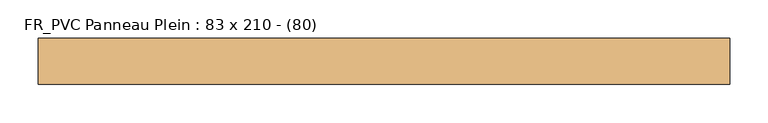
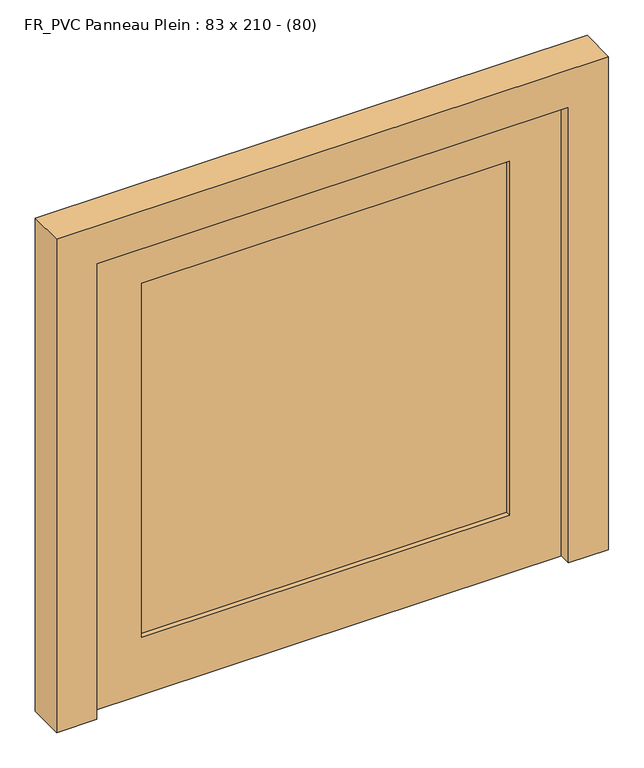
"""IFC4 building model written with IfcOpenShell, lengths in millimetres: door geometry, FR_PVC Panneau Plein : 83 x 210 - (80)."""

from ifc_helpers import new_model, si_unit, origin, place, context, project, spatial, faceted_brep, source, transform, mapped, element, save


def fr_pvc_panneau_plein_83_x_210_80_f0693e7c(model_context):
    return source(origin(), model_context, "Body", "Brep", [
        faceted_brep([(-450.0, 88.7935702, 0.0), (-400.0, 88.7935702, 0.0), (-400.0, 48.7935702, 0.0), (-385.0, 48.7935702, 0.0), (-385.0, 28.7935702, 0.0), (-450.0, 28.7935702, 0.0), (-450.0, 28.7935702, 850.0), (-450.0, 88.7935702, 850.0), (-385.0, 28.7935702, 785.0), (385.0, 28.7935702, 785.0), (385.0, 28.7935702, 0.0), (450.0, 28.7935702, 0.0), (450.0, 28.7935702, 850.0), (-385.0, 48.7935702, 785.0), (-400.0, 48.7935702, 800.0), (400.0, 48.7935702, 800.0), (400.0, 48.7935702, 0.0), (385.0, 48.7935702, 0.0), (385.0, 48.7935702, 785.0), (-400.0, 88.7935702, 800.0), (450.0, 88.7935702, 850.0), (450.0, 88.7935702, 0.0), (400.0, 88.7935702, 0.0), (400.0, 88.7935702, 800.0)], [[[0, 1, 2, 3, 4, 5]], [[5, 6, 7, 0]], [[4, 8, 9, 10, 11, 12, 6, 5]], [[3, 13, 8, 4]], [[2, 14, 15, 16, 17, 18, 13, 3]], [[1, 19, 14, 2]], [[0, 7, 20, 21, 22, 23, 19, 1]], [[11, 21, 20, 12]], [[10, 17, 16, 22, 21, 11]], [[9, 18, 17, 10]], [[15, 23, 22, 16]], [[6, 12, 20, 7]], [[8, 13, 18, 9]], [[14, 19, 23, 15]]]),
        faceted_brep([(-400.0, 88.7935702, 800.0), (400.0, 88.7935702, 800.0), (400.0, 88.7935702, 0.0), (-400.0, 88.7935702, 0.0), (300.0, 88.7935702, 710.0), (-300.0, 88.7935702, 710.0), (-300.0, 88.7935702, 100.0), (300.0, 88.7935702, 100.0), (-400.0, 48.7935702, 800.0), (-400.0, 48.7935702, 0.0), (400.0, 48.7935702, 0.0), (400.0, 48.7935702, 800.0), (-300.0, 48.7935702, 710.0), (300.0, 48.7935702, 710.0), (300.0, 48.7935702, 100.0), (-300.0, 48.7935702, 100.0), (300.0, 80.7935702, 710.0), (300.0, 80.7935702, 100.0), (-300.0, 80.7935702, 100.0), (-300.0, 80.7935702, 710.0), (-300.0, 56.7935702, 710.0), (-300.0, 56.7935702, 100.0), (300.0, 56.7935702, 100.0), (300.0, 56.7935702, 710.0)], [[[0, 1, 2, 3], [4, 5, 6, 7]], [[8, 9, 10, 11], [12, 13, 14, 15]], [[3, 9, 8, 0]], [[2, 10, 9, 3]], [[1, 11, 10, 2]], [[0, 8, 11, 1]], [[16, 17, 18, 19]], [[16, 4, 7, 17]], [[17, 7, 6, 18]], [[18, 6, 5, 19]], [[19, 5, 4, 16]], [[20, 21, 22, 23]], [[20, 12, 15, 21]], [[21, 15, 14, 22]], [[22, 14, 13, 23]], [[23, 13, 12, 20]]]),
    ])


if __name__ == "__main__":
    model = new_model("IFC4")
    model_context = context("Model", 3, world=origin())
    ifc_project = project(units=[si_unit("LENGTHUNIT", "METRE", prefix="MILLI")], contexts=[model_context])
    site = spatial("IfcSite", under=ifc_project)
    building = spatial("IfcBuilding", under=site)
    placement = place(None, origin())
    fr_pvc_panneau_plein_83_x_210_80_shape = fr_pvc_panneau_plein_83_x_210_80_f0693e7c(model_context)
    element("IfcDoor", 1, ObjectType="FR_PVC Panneau Plein : 83 x 210 - (80)", at=placement, inside=building, context=model_context, shape_type="MappedRepresentation", body=[
        mapped(fr_pvc_panneau_plein_83_x_210_80_shape, transform((0.0, 0.0, 0.0), x_axis=(1.0, 0.0, 0.0), y_axis=(0.0, 1.0, 0.0), z_axis=(0.0, 0.0, 1.0))),
    ])
    save(model, "model.ifc")
